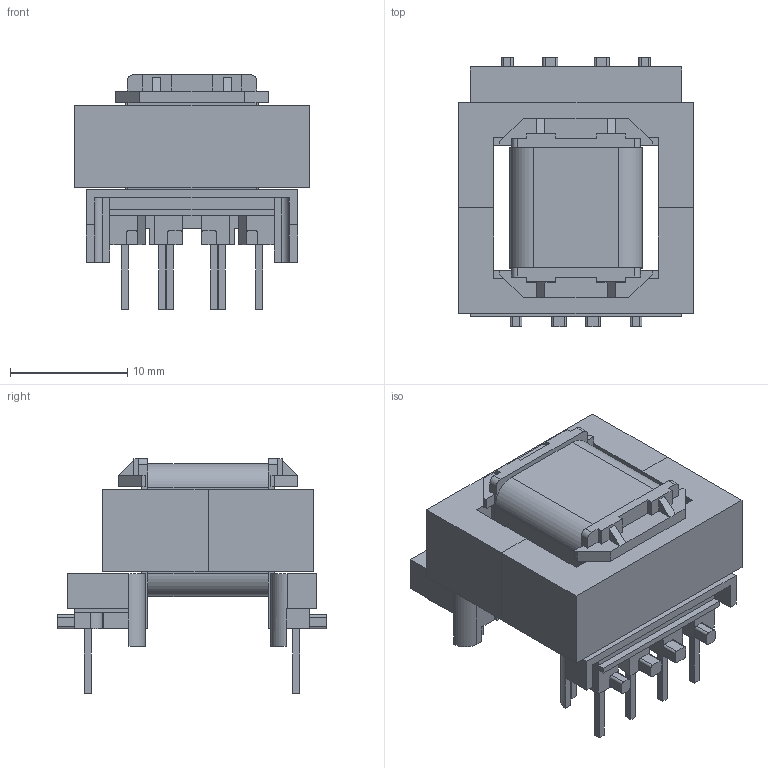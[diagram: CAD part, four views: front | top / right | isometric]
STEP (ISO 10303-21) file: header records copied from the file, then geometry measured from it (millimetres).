
FILE_DESCRIPTION (( 'STEP AP214' ), '1' );
FILE_NAME ('799385swp001.STEP', '2024-08-06T10:02:39', ( '' ), ( '' ), 'SwSTEP 2.0', 'SolidWorks 2020', '' );
FILE_SCHEMA (( 'AUTOMOTIVE_DESIGN' ));
Length unit declared in the file: millimetre
Products named in the file (1): 799385swp001
Bounding box: 20 x 23 x 20 mm (x, y, z)
Volume: 2814.6 mm3; surface area: 3715.5 mm2
Topology: 2 solids, 3 shells, 328 faces, 916 edges, 598 vertices
Faces by surface type: plane 276, cylinder 52
Entity records: 11055 total; most frequent: CARTESIAN_POINT 1843, ORIENTED_EDGE 1832, DIRECTION 1690, EDGE_CURVE 916, VECTOR 800, LINE 800, VERTEX_POINT 598, AXIS2_PLACEMENT_3D 445
